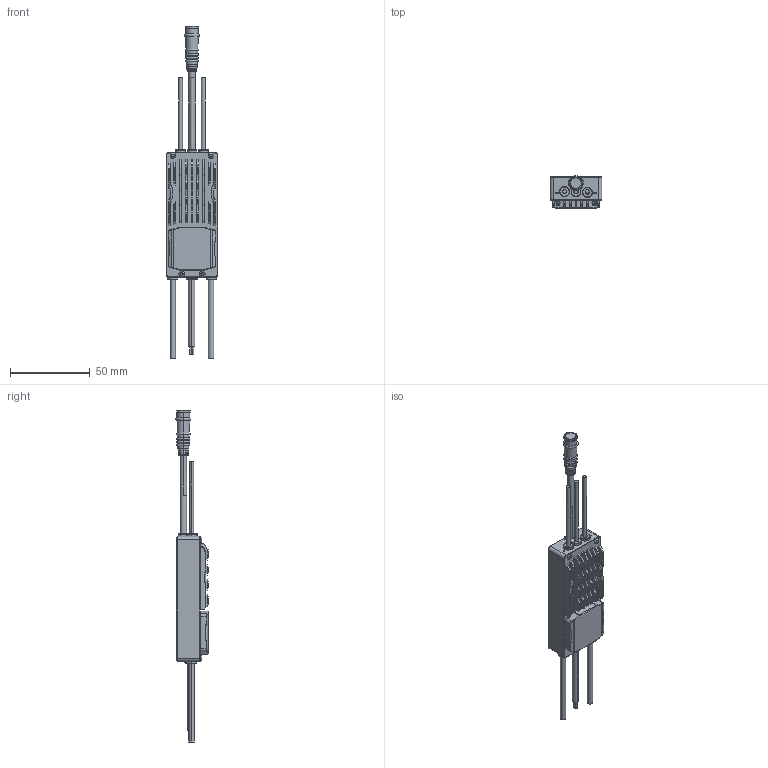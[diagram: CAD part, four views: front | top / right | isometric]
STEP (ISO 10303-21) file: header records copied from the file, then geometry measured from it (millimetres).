
FILE_DESCRIPTION((''),'2;1');
FILE_NAME('00HW5118-60A-14S-BLDC_SW0001','2025-08-31T13:45:20',('24429'),(''),'CREO PARAMETRIC BY PTC INC, 2021284','CREO PARAMETRIC BY PTC INC, 2021284','');
FILE_SCHEMA(('CONFIG_CONTROL_DESIGN'));
Products named in the file (1): 00HW5118-60A-14S-BLDC_SW0001
Bounding box: 32.5 x 20.35 x 208.52 mm (x, y, z)
Volume: 20006.9 mm3; surface area: 28852.2 mm2
Topology: 1 solids, 1 shells, 1114 faces, 2994 edges, 1918 vertices
Faces by surface type: plane 577, cylinder 366, cone 82, torus 51, bspline 34, extrusion 4
Entity records: 48576 total; most frequent: CARTESIAN_POINT 20679, ORIENTED_EDGE 5988, DIRECTION 5600, EDGE_CURVE 2994, VERTEX_POINT 1918, VECTOR 1878, LINE 1874, AXIS2_PLACEMENT_3D 1861
